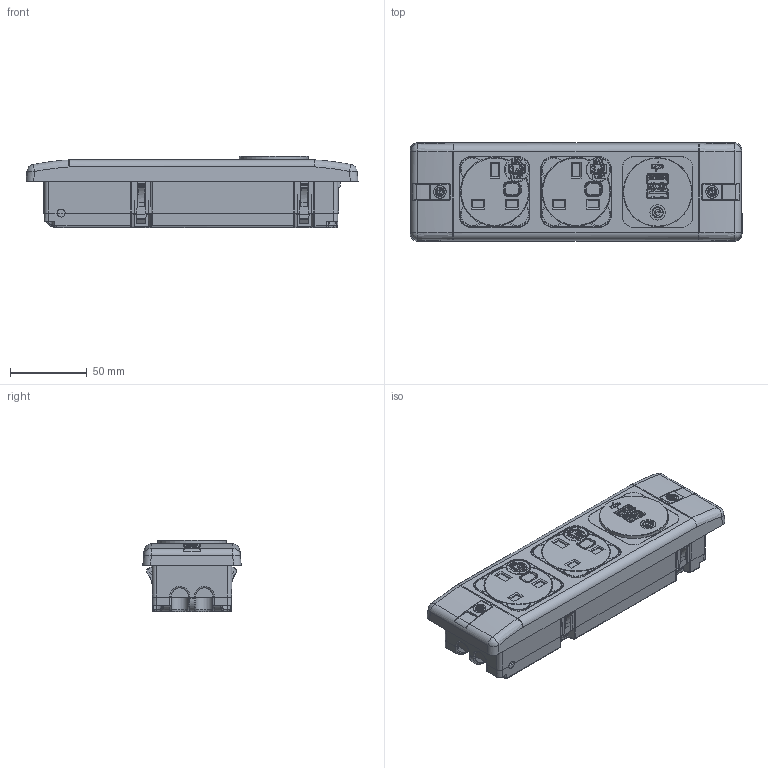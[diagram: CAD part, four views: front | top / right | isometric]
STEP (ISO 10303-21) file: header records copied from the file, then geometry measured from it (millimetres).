
FILE_DESCRIPTION((''),'2;1');
FILE_NAME('P:\Manufacturing\Autocad drawings\Inventor\blocks\puma-block\Puma 2 UK 1 TUF.stp','2014-04-30T14:55:08',('shane.durham'),(''),'Autodesk Inventor 2012','Autodesk Inventor 2012','');
FILE_SCHEMA(('AUTOMOTIVE_DESIGN { 1 0 10303 214 1 1 1 1 }'));
Length unit declared in the file: millimetre
Products named in the file (13): puma 1331; puma-base-block; puma-box-block; puma-frame-block; screw-cover-block; screw-cover-block1; puma-clip; new-skt-block; usb-charger-with mount; 1430-3D-004-B USB Round Fascia; usb-pcb-mount; Euro socket mounting plate
Assembly tree (17 placements, depth 3):
  puma 1331
    puma-base-block
    puma-box-block
    puma-frame-block
      puma-frame-block
      screw-cover-block
      screw-cover-block1
    puma-clip  x4
    new-skt-block  x2
    usb-charger-with mount
      1430-3D-004-B USB Round Fascia
      usb-pcb-mount  x2
      Euro socket mounting plate
Bounding box: 216 x 64 x 46.2 mm (x, y, z)
Volume: 471333.9 mm3; surface area: 156336.4 mm2
Topology: 17 solids, 40 shells, 3825 faces, 10317 edges, 6748 vertices
Faces by surface type: plane 2549, cylinder 623, bspline 352, cone 222, sphere 46, torus 33
Full cylindrical faces by diameter (mm): 3 x4, 5.853 x2, 7.209 x1, 8.113 x2, 9.992 x1, 15.1 x2
Entity records: 98817 total; most frequent: CARTESIAN_POINT 29146, ORIENTED_EDGE 14598, DIRECTION 13298, EDGE_CURVE 7299, VECTOR 5524, LINE 5524, VERTEX_POINT 4759, AXIS2_PLACEMENT_3D 3887
